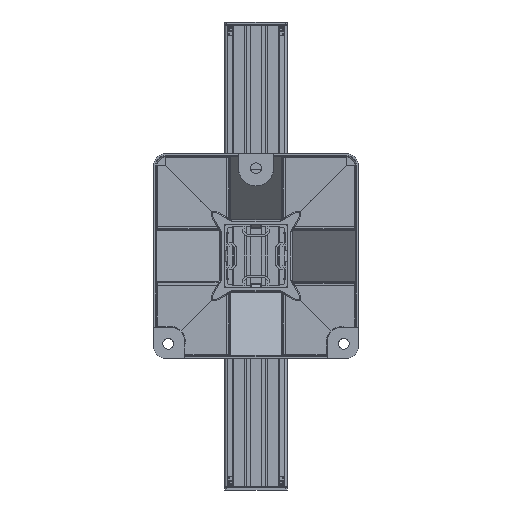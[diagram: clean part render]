
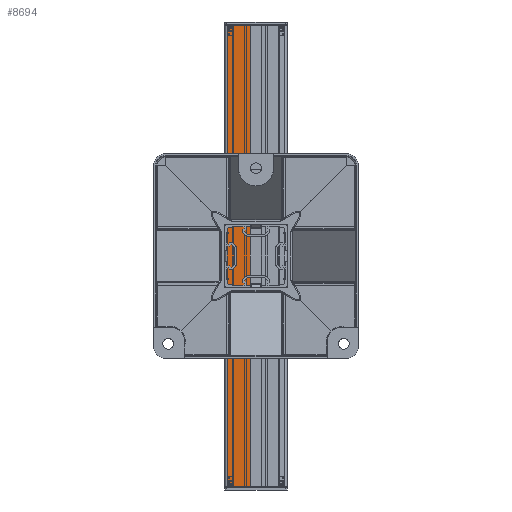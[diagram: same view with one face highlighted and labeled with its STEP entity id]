
A CAD part, front view. The second image highlights one B-rep face of the part: STEP entity #8694.
In plain terms, the highlighted planar face has unit normal (0, -1, 0).
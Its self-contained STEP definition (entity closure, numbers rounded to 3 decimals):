
#2866 = VERTEX_POINT ( 'NONE', #29341 ) ;
#2933 = VERTEX_POINT ( 'NONE', #29486 ) ;
#2942 = EDGE_CURVE ( 'NONE', #2866, #2933, #29462, .T. ) ;
#8590 = ORIENTED_EDGE ( 'NONE', *, *, #8693, .F. ) ;
#8625 = ORIENTED_EDGE ( 'NONE', *, *, #8635, .T. ) ;
#8631 = EDGE_LOOP ( 'NONE', ( #8634, #8590, #8696, #8625 ) ) ;
#8634 = ORIENTED_EDGE ( 'NONE', *, *, #31652, .T. ) ;
#8635 = EDGE_CURVE ( 'NONE', #2866, #31644, #30552, .T. ) ;
#8693 = EDGE_CURVE ( 'NONE', #2933, #31664, #30598, .T. ) ;
#8694 = ADVANCED_FACE ( 'NONE', ( #30660 ), #30613, .F. ) ;
#8696 = ORIENTED_EDGE ( 'NONE', *, *, #2942, .F. ) ;
#29341 = CARTESIAN_POINT ( 'NONE',  ( -29.5, -32., 236. ) ) ;
#29462 = LINE ( 'NONE', #29520, #29519 ) ;
#29486 = CARTESIAN_POINT ( 'NONE',  ( -6., -32., 236. ) ) ;
#29518 = DIRECTION ( 'NONE',  ( 1., 0., 0. ) ) ;
#29519 = VECTOR ( 'NONE', #29518, 1000. ) ;
#29520 = CARTESIAN_POINT ( 'NONE',  ( -29.5, -32., 236. ) ) ;
#30543 = DIRECTION ( 'NONE',  ( 0., 0., -1. ) ) ;
#30550 = VECTOR ( 'NONE', #30543, 1000. ) ;
#30551 = CARTESIAN_POINT ( 'NONE',  ( -29.5, -32., 236. ) ) ;
#30552 = LINE ( 'NONE', #30551, #30550 ) ;
#30598 = LINE ( 'NONE', #30654, #30653 ) ;
#30599 = CARTESIAN_POINT ( 'NONE',  ( -29.5, -32., 236. ) ) ;
#30613 = PLANE ( 'NONE',  #30651 ) ;
#30645 = DIRECTION ( 'NONE',  ( 0., 0., 1. ) ) ;
#30646 = DIRECTION ( 'NONE',  ( 0., 1., 0. ) ) ;
#30651 = AXIS2_PLACEMENT_3D ( 'NONE', #30599, #30646, #30645 ) ;
#30652 = DIRECTION ( 'NONE',  ( 0., 0., -1. ) ) ;
#30653 = VECTOR ( 'NONE', #30652, 1000. ) ;
#30654 = CARTESIAN_POINT ( 'NONE',  ( -6., -32., 236. ) ) ;
#30660 = FACE_OUTER_BOUND ( 'NONE', #8631, .T. ) ;
#31644 = VERTEX_POINT ( 'NONE', #41966 ) ;
#31652 = EDGE_CURVE ( 'NONE', #31644, #31664, #42001, .T. ) ;
#31664 = VERTEX_POINT ( 'NONE', #42044 ) ;
#41966 = CARTESIAN_POINT ( 'NONE',  ( -29.5, -32., -236. ) ) ;
#41998 = DIRECTION ( 'NONE',  ( 1., 0., 0. ) ) ;
#41999 = VECTOR ( 'NONE', #41998, 1000. ) ;
#42000 = CARTESIAN_POINT ( 'NONE',  ( -29.5, -32., -236. ) ) ;
#42001 = LINE ( 'NONE', #42000, #41999 ) ;
#42044 = CARTESIAN_POINT ( 'NONE',  ( -6., -32., -236. ) ) ;
